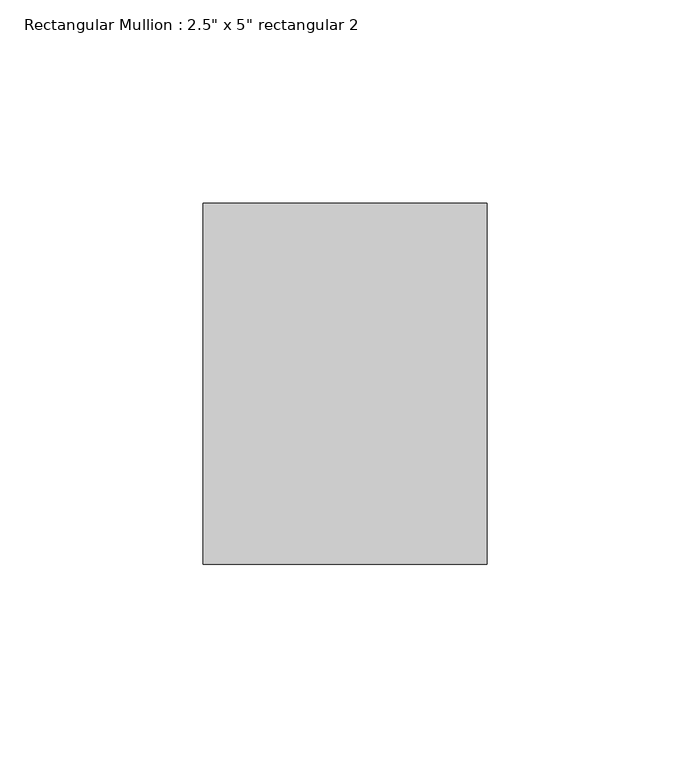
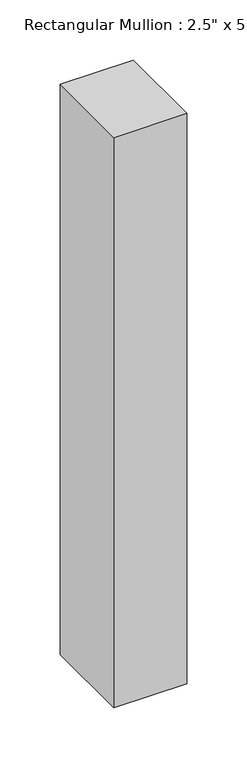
"""IFC4 building model written with IfcOpenShell, lengths in millimetres: member geometry."""

from ifc_helpers import new_model, si_unit, frame, origin, place, context, project, spatial, polyline, outline, extrude, source, transform, mapped, element, save


def member_0174ca3d(model_context):
    return source(origin(), model_context, "Body", "SweptSolid", [
        extrude(outline(polyline([(0.0, 44.45), (0.0, -44.45), (-69.85, -44.45), (-69.85, 44.45), (0.0, 44.45)])), frame((0.0, 0.0, -577.7274401), z_axis=(0.0, 0.0, 1.0), x_axis=(1.0, 0.0, 0.0)), (0.0, 0.0, 1.0), 577.7274401),
    ])


if __name__ == "__main__":
    model = new_model("IFC4")
    model_context = context("Model", 3, world=origin())
    ifc_project = project(units=[si_unit("LENGTHUNIT", "METRE", prefix="MILLI")], contexts=[model_context])
    site = spatial("IfcSite", under=ifc_project)
    building = spatial("IfcBuilding", under=site)
    placement = place(None, origin())
    member_shape = member_0174ca3d(model_context)
    element("IfcMember", 1, ObjectType="Rectangular Mullion : 2.5\" x 5\" rectangular 2", at=placement, inside=building, context=model_context, shape_type="MappedRepresentation", body=[
        mapped(member_shape, transform((0.0, 0.0, 0.0), x_axis=(1.0, 0.0, 0.0), y_axis=(0.0, 1.0, 0.0), z_axis=(0.0, 0.0, 1.0))),
    ])
    save(model, "model.ifc")
